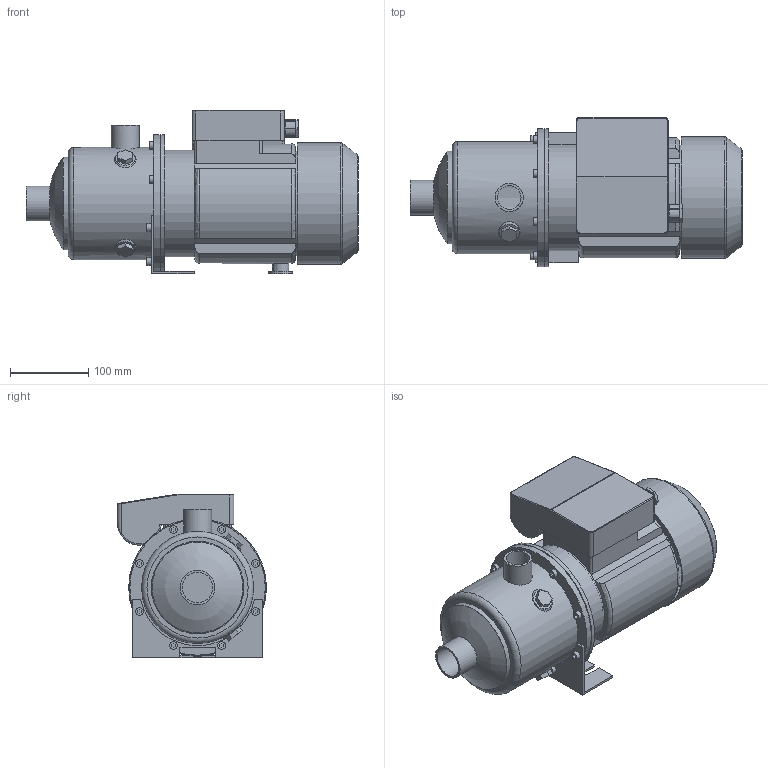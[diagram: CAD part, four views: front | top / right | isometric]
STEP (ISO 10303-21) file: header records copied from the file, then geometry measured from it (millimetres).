
FILE_DESCRIPTION(/* description */ ('Unknown'),/* implementation_level */ '2;1');
FILE_NAME(/* name */ 'MH 5 [4] M',/* time_stamp */ '2026-07-10T14:59:23+02:00',/* author */ ('Unknown'),/* organization */ ('Unknown'),/* preprocessor_version */ 'ST-DEVELOPER v20',/* originating_system */ 'Solid Edge',/* authorisation */ 'Unknown');
FILE_SCHEMA (('AUTOMOTIVE_DESIGN {1 0 10303 214 3 1 1}'));
Length unit declared in the file: millimetre
Products named in the file (10): MH 5 [4] M; Flangia motore Tonda M80; Corpo MH 3-5 [4]; Mot_Wendy_MEC80_11-15_M; carcassa MEC 80-Wendy; Copriventola MEC 80-Wendy; Basetta MEC 80 M-Wendy_new; 1; Piedino MEC 80 int.90; Staffa 3-5-9 int.90
Assembly tree (9 placements, depth 3):
  MH 5 [4] M
    Flangia motore Tonda M80
    Corpo MH 3-5 [4]
    Mot_Wendy_MEC80_11-15_M
      carcassa MEC 80-Wendy
      Copriventola MEC 80-Wendy
      Basetta MEC 80 M-Wendy_new
      1
    Piedino MEC 80 int.90
    Staffa 3-5-9 int.90
Bounding box: 425.1 x 190.75 x 209.5 mm (x, y, z)
Volume: 2610915.9 mm3; surface area: 581808.9 mm2
Topology: 8 solids, 8 shells, 287 faces, 678 edges, 447 vertices
Faces by surface type: plane 169, cylinder 79, torus 19, cone 14, bspline 4, sphere 2
Full cylindrical faces by diameter (mm): 7 x4, 10 x9, 12 x1, 15 x1, 16.5 x1, 21 x1, 30 x1, 30.291 x1, 36 x1, 38.952 x1, 44.5 x1, 116.1 x1, 118.5 x1, 125 x1, 130 x3, 134 x1, 136 x1, 141.1 x1, 143.5 x1, 153.5 x1, 155.5 x1, 173.5 x1, 174.1 x1, 176.5 x2
Entity records: 9308 total; most frequent: CARTESIAN_POINT 1776, DIRECTION 1316, ORIENTED_EDGE 1180, EDGE_CURVE 590, AXIS2_PLACEMENT_3D 487, VERTEX_POINT 417, EDGE_LOOP 395, FACE_BOUND 395
